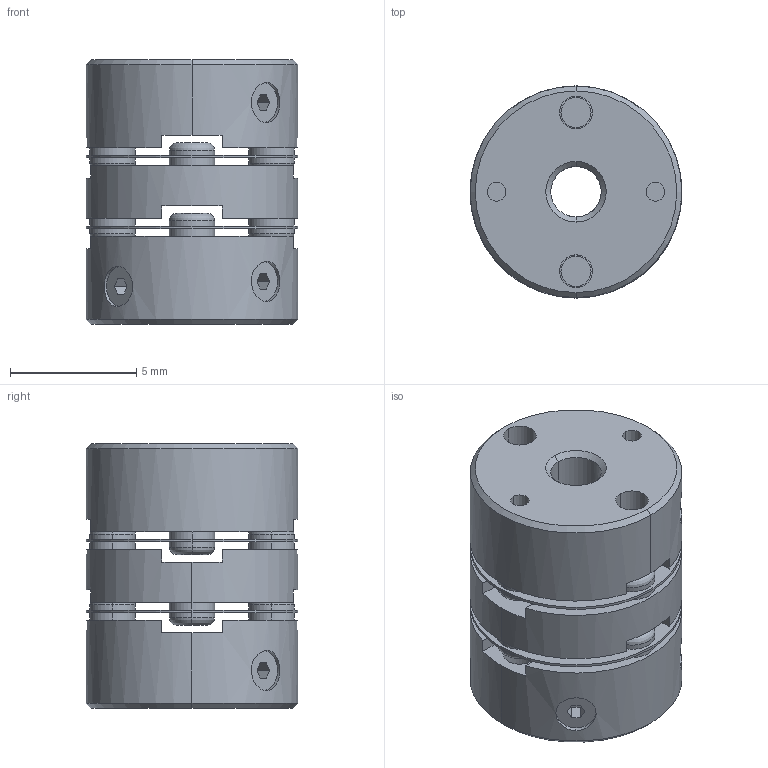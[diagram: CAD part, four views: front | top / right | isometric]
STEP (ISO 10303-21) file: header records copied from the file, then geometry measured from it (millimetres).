
FILE_DESCRIPTION((''),'2;1');
FILE_NAME('LAD-8.4-2×3.stp','2015-10-05T13:41:37',(''),(''),'AutoCAD STEP 2000i','AutoCAD 2000i',', , ');
FILE_SCHEMA(('CONFIG_CONTROL_DESIGN'));
Length unit declared in the file: millimetre
Products named in the file (7): LAD-8.4-2×3; 忣兜1; ﾊﾌﾞφ3-2; ﾊﾌﾞφ3-1; ﾊﾌﾞφ3; SET-M1.6亊2.5; LAD板ﾊﾞﾈ部
Assembly tree (7 placements, depth 2):
  LAD-8.4-2×3
    忣兜1
    ﾊﾌﾞφ3-2
    ﾊﾌﾞφ3-1
    ﾊﾌﾞφ3  x2
    SET-M1.6亊2.5
    LAD板ﾊﾞﾈ部
Bounding box: 8.4 x 8.4 x 10.5 mm (x, y, z)
Volume: 412.6 mm3; surface area: 829.2 mm2
Topology: 1 solids, 1 shells, 178 faces, 452 edges, 313 vertices
Faces by surface type: cylinder 80, plane 74, torus 16, cone 8
Entity records: 5833 total; most frequent: CARTESIAN_POINT 1153, DIRECTION 1025, ORIENTED_EDGE 870, EDGE_CURVE 435, AXIS2_PLACEMENT_3D 410, VERTEX_POINT 284, EDGE_LOOP 229, CIRCLE 224
